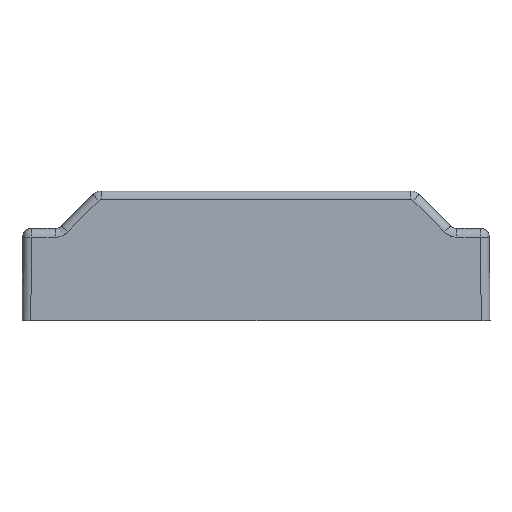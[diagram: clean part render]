
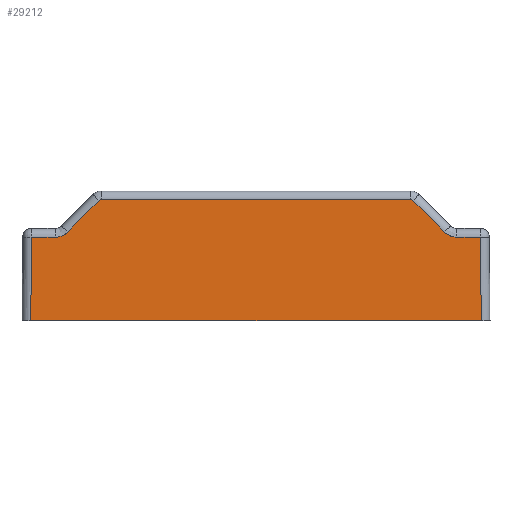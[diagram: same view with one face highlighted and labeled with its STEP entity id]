
A CAD part, front view. The second image highlights one B-rep face of the part: STEP entity #29212.
In plain terms, the highlighted planar face has unit normal (0, -1, 0.009).
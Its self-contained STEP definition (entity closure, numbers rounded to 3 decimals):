
#2046 = DIRECTION ( 'NONE',  ( 1., 0., 0. ) ) ;
#2047 = DIRECTION ( 'NONE',  ( 0., -1., 0.009 ) ) ;
#2048 = CARTESIAN_POINT ( 'NONE',  ( -229.598, -48.236, -461.433 ) ) ;
#2049 = AXIS2_PLACEMENT_3D ( 'NONE', #2048, #2047, #2046 ) ;
#2050 = PLANE ( 'NONE',  #2049 ) ;
#2051 = FACE_OUTER_BOUND ( 'NONE', #29213, .T. ) ;
#2087 = B_SPLINE_CURVE_WITH_KNOTS ( 'NONE', 3,
 ( #2143, #2142, #2141, #2140 ),
 .UNSPECIFIED., .F., .F.,
 ( 4, 4 ),
 ( 0., 1. ),
 .UNSPECIFIED. ) ;
#2088 = CARTESIAN_POINT ( 'NONE',  ( -161.673, -48.048, -439.904 ) ) ;
#2089 = CARTESIAN_POINT ( 'NONE',  ( -156.298, -48.095, -445.279 ) ) ;
#2090 = CARTESIAN_POINT ( 'NONE',  ( -156.02, -48.097, -445.557 ) ) ;
#2091 = CARTESIAN_POINT ( 'NONE',  ( -155.685, -48.099, -445.78 ) ) ;
#2092 = CARTESIAN_POINT ( 'NONE',  ( -155.144, -48.101, -446.004 ) ) ;
#2093 = CARTESIAN_POINT ( 'NONE',  ( -154.954, -48.102, -446.062 ) ) ;
#2094 = CARTESIAN_POINT ( 'NONE',  ( -154.569, -48.102, -446.138 ) ) ;
#2095 = CARTESIAN_POINT ( 'NONE',  ( -154.373, -48.103, -446.158 ) ) ;
#2096 = CARTESIAN_POINT ( 'NONE',  ( -154.176, -48.103, -446.158 ) ) ;
#2097 = CARTESIAN_POINT ( 'NONE',  ( -156.298, -48.095, -445.279 ) ) ;
#2098 = B_SPLINE_CURVE_WITH_KNOTS ( 'NONE', 3,
 ( #2096, #2095, #2094, #2093, #2092, #2091, #2090, #2089 ),
 .UNSPECIFIED., .F., .F.,
 ( 4, 2, 2, 4 ),
 ( 0., 0.25, 0.5, 1. ),
 .UNSPECIFIED. ) ;
#2100 = CARTESIAN_POINT ( 'NONE',  ( -154.176, -48.103, -446.158 ) ) ;
#2101 = DIRECTION ( 'NONE',  ( -1., 0., 0. ) ) ;
#2102 = VECTOR ( 'NONE', #2101, 1000. ) ;
#2103 = CARTESIAN_POINT ( 'NONE',  ( -188.498, -48.103, -446.158 ) ) ;
#2104 = LINE ( 'NONE', #2103, #2102 ) ;
#2115 = CARTESIAN_POINT ( 'NONE',  ( -222.819, -48.103, -446.158 ) ) ;
#2116 = CARTESIAN_POINT ( 'NONE',  ( -222.426, -48.103, -446.158 ) ) ;
#2117 = CARTESIAN_POINT ( 'NONE',  ( -222.032, -48.102, -446.079 ) ) ;
#2118 = CARTESIAN_POINT ( 'NONE',  ( -221.49, -48.1, -445.854 ) ) ;
#2119 = CARTESIAN_POINT ( 'NONE',  ( -221.315, -48.099, -445.761 ) ) ;
#2120 = CARTESIAN_POINT ( 'NONE',  ( -220.989, -48.097, -445.543 ) ) ;
#2121 = CARTESIAN_POINT ( 'NONE',  ( -220.836, -48.096, -445.418 ) ) ;
#2122 = CARTESIAN_POINT ( 'NONE',  ( -220.698, -48.095, -445.279 ) ) ;
#2124 = CARTESIAN_POINT ( 'NONE',  ( -220.698, -48.095, -445.279 ) ) ;
#2125 = B_SPLINE_CURVE_WITH_KNOTS ( 'NONE', 3,
 ( #2122, #2121, #2120, #2119, #2118, #2117, #2116, #2115 ),
 .UNSPECIFIED., .F., .F.,
 ( 4, 2, 2, 4 ),
 ( 0., 0.25, 0.5, 1. ),
 .UNSPECIFIED. ) ;
#2126 = CARTESIAN_POINT ( 'NONE',  ( -222.819, -48.103, -446.158 ) ) ;
#2128 = CARTESIAN_POINT ( 'NONE',  ( -214.969, -48.047, -439.758 ) ) ;
#2129 = DIRECTION ( 'NONE',  ( -1., 0., 0. ) ) ;
#2130 = VECTOR ( 'NONE', #2129, 1000. ) ;
#2131 = CARTESIAN_POINT ( 'NONE',  ( -188.498, -48.047, -439.758 ) ) ;
#2132 = LINE ( 'NONE', #2131, #2130 ) ;
#2133 = CARTESIAN_POINT ( 'NONE',  ( -162.026, -48.047, -439.758 ) ) ;
#2134 = CARTESIAN_POINT ( 'NONE',  ( -161.893, -48.047, -439.758 ) ) ;
#2135 = CARTESIAN_POINT ( 'NONE',  ( -161.765, -48.047, -439.812 ) ) ;
#2136 = CARTESIAN_POINT ( 'NONE',  ( -161.673, -48.048, -439.904 ) ) ;
#2138 = CARTESIAN_POINT ( 'NONE',  ( -162.026, -48.047, -439.758 ) ) ;
#2139 = B_SPLINE_CURVE_WITH_KNOTS ( 'NONE', 3,
 ( #2136, #2135, #2134, #2133 ),
 .UNSPECIFIED., .F., .F.,
 ( 4, 4 ),
 ( 0., 1. ),
 .UNSPECIFIED. ) ;
#2140 = CARTESIAN_POINT ( 'NONE',  ( -161.673, -48.048, -439.904 ) ) ;
#2141 = CARTESIAN_POINT ( 'NONE',  ( -159.881, -48.064, -441.696 ) ) ;
#2142 = CARTESIAN_POINT ( 'NONE',  ( -158.089, -48.079, -443.487 ) ) ;
#2143 = CARTESIAN_POINT ( 'NONE',  ( -156.298, -48.095, -445.279 ) ) ;
#2148 = CARTESIAN_POINT ( 'NONE',  ( -150.122, -48.103, -446.158 ) ) ;
#2149 = CARTESIAN_POINT ( 'NONE',  ( -150.081, -48.144, -450.929 ) ) ;
#2150 = CARTESIAN_POINT ( 'NONE',  ( -150.039, -48.186, -455.7 ) ) ;
#2151 = CARTESIAN_POINT ( 'NONE',  ( -149.998, -48.228, -460.471 ) ) ;
#2152 = CARTESIAN_POINT ( 'NONE',  ( -150.122, -48.103, -446.158 ) ) ;
#2153 = B_SPLINE_CURVE_WITH_KNOTS ( 'NONE', 3,
 ( #2151, #2150, #2149, #2148 ),
 .UNSPECIFIED., .F., .F.,
 ( 4, 4 ),
 ( 0., 1. ),
 .UNSPECIFIED. ) ;
#2154 = CARTESIAN_POINT ( 'NONE',  ( -149.998, -48.228, -460.471 ) ) ;
#2155 = DIRECTION ( 'NONE',  ( 1., 0., 0. ) ) ;
#2156 = VECTOR ( 'NONE', #2155, 1000. ) ;
#2157 = CARTESIAN_POINT ( 'NONE',  ( -188.498, -48.228, -460.471 ) ) ;
#2158 = LINE ( 'NONE', #2157, #2156 ) ;
#2159 = CARTESIAN_POINT ( 'NONE',  ( -226.998, -48.228, -460.471 ) ) ;
#2160 = CARTESIAN_POINT ( 'NONE',  ( -226.956, -48.186, -455.7 ) ) ;
#2161 = CARTESIAN_POINT ( 'NONE',  ( -226.914, -48.144, -450.929 ) ) ;
#2162 = CARTESIAN_POINT ( 'NONE',  ( -226.873, -48.103, -446.158 ) ) ;
#2163 = CARTESIAN_POINT ( 'NONE',  ( -226.998, -48.228, -460.471 ) ) ;
#2164 = B_SPLINE_CURVE_WITH_KNOTS ( 'NONE', 3,
 ( #2162, #2161, #2160, #2159 ),
 .UNSPECIFIED., .F., .F.,
 ( 4, 4 ),
 ( 0., 1. ),
 .UNSPECIFIED. ) ;
#2165 = CARTESIAN_POINT ( 'NONE',  ( -226.873, -48.103, -446.158 ) ) ;
#2166 = DIRECTION ( 'NONE',  ( -1., 0., 0. ) ) ;
#2167 = VECTOR ( 'NONE', #2166, 1000. ) ;
#2168 = CARTESIAN_POINT ( 'NONE',  ( -188.498, -48.103, -446.158 ) ) ;
#2169 = LINE ( 'NONE', #2168, #2167 ) ;
#2244 = CARTESIAN_POINT ( 'NONE',  ( -220.698, -48.095, -445.279 ) ) ;
#2245 = CARTESIAN_POINT ( 'NONE',  ( -218.906, -48.079, -443.487 ) ) ;
#2246 = CARTESIAN_POINT ( 'NONE',  ( -217.114, -48.064, -441.696 ) ) ;
#2247 = CARTESIAN_POINT ( 'NONE',  ( -215.323, -48.048, -439.904 ) ) ;
#2249 = B_SPLINE_CURVE_WITH_KNOTS ( 'NONE', 3,
 ( #2247, #2246, #2245, #2244 ),
 .UNSPECIFIED., .F., .F.,
 ( 4, 4 ),
 ( 0., 1. ),
 .UNSPECIFIED. ) ;
#2250 = CARTESIAN_POINT ( 'NONE',  ( -215.323, -48.048, -439.904 ) ) ;
#2251 = CARTESIAN_POINT ( 'NONE',  ( -215.229, -48.047, -439.81 ) ) ;
#2252 = CARTESIAN_POINT ( 'NONE',  ( -215.1, -48.047, -439.758 ) ) ;
#2253 = CARTESIAN_POINT ( 'NONE',  ( -214.969, -48.047, -439.758 ) ) ;
#2254 = CARTESIAN_POINT ( 'NONE',  ( -215.323, -48.048, -439.904 ) ) ;
#2255 = B_SPLINE_CURVE_WITH_KNOTS ( 'NONE', 3,
 ( #2253, #2252, #2251, #2250 ),
 .UNSPECIFIED., .F., .F.,
 ( 4, 4 ),
 ( 0., 1. ),
 .UNSPECIFIED. ) ;
#29212 = ADVANCED_FACE ( 'NONE', ( #2051 ), #2050, .T. ) ;
#29213 = EDGE_LOOP ( 'NONE', ( #29214, #29268, #29271, #29274, #29277, #29247, #29251, #29254, #29257, #29260, #29317, #29320 ) ) ;
#29214 = ORIENTED_EDGE ( 'NONE', *, *, #29264, .T. ) ;
#29247 = ORIENTED_EDGE ( 'NONE', *, *, #29248, .T. ) ;
#29248 = EDGE_CURVE ( 'NONE', #29279, #29249, #2104, .T. ) ;
#29249 = VERTEX_POINT ( 'NONE', #2100 ) ;
#29251 = ORIENTED_EDGE ( 'NONE', *, *, #29252, .T. ) ;
#29252 = EDGE_CURVE ( 'NONE', #29249, #29253, #2098, .T. ) ;
#29253 = VERTEX_POINT ( 'NONE', #2097 ) ;
#29254 = ORIENTED_EDGE ( 'NONE', *, *, #29255, .T. ) ;
#29255 = EDGE_CURVE ( 'NONE', #29253, #29256, #2087, .T. ) ;
#29256 = VERTEX_POINT ( 'NONE', #2088 ) ;
#29257 = ORIENTED_EDGE ( 'NONE', *, *, #29258, .T. ) ;
#29258 = EDGE_CURVE ( 'NONE', #29256, #29259, #2139, .T. ) ;
#29259 = VERTEX_POINT ( 'NONE', #2138 ) ;
#29260 = ORIENTED_EDGE ( 'NONE', *, *, #29261, .T. ) ;
#29261 = EDGE_CURVE ( 'NONE', #29259, #29262, #2132, .T. ) ;
#29262 = VERTEX_POINT ( 'NONE', #2128 ) ;
#29264 = EDGE_CURVE ( 'NONE', #29265, #29266, #2125, .T. ) ;
#29265 = VERTEX_POINT ( 'NONE', #2124 ) ;
#29266 = VERTEX_POINT ( 'NONE', #2126 ) ;
#29268 = ORIENTED_EDGE ( 'NONE', *, *, #29269, .T. ) ;
#29269 = EDGE_CURVE ( 'NONE', #29266, #29270, #2169, .T. ) ;
#29270 = VERTEX_POINT ( 'NONE', #2165 ) ;
#29271 = ORIENTED_EDGE ( 'NONE', *, *, #29272, .T. ) ;
#29272 = EDGE_CURVE ( 'NONE', #29270, #29273, #2164, .T. ) ;
#29273 = VERTEX_POINT ( 'NONE', #2163 ) ;
#29274 = ORIENTED_EDGE ( 'NONE', *, *, #29275, .T. ) ;
#29275 = EDGE_CURVE ( 'NONE', #29273, #29276, #2158, .T. ) ;
#29276 = VERTEX_POINT ( 'NONE', #2154 ) ;
#29277 = ORIENTED_EDGE ( 'NONE', *, *, #29278, .T. ) ;
#29278 = EDGE_CURVE ( 'NONE', #29276, #29279, #2153, .T. ) ;
#29279 = VERTEX_POINT ( 'NONE', #2152 ) ;
#29317 = ORIENTED_EDGE ( 'NONE', *, *, #29318, .T. ) ;
#29318 = EDGE_CURVE ( 'NONE', #29262, #29319, #2255, .T. ) ;
#29319 = VERTEX_POINT ( 'NONE', #2254 ) ;
#29320 = ORIENTED_EDGE ( 'NONE', *, *, #29321, .T. ) ;
#29321 = EDGE_CURVE ( 'NONE', #29319, #29265, #2249, .T. ) ;
